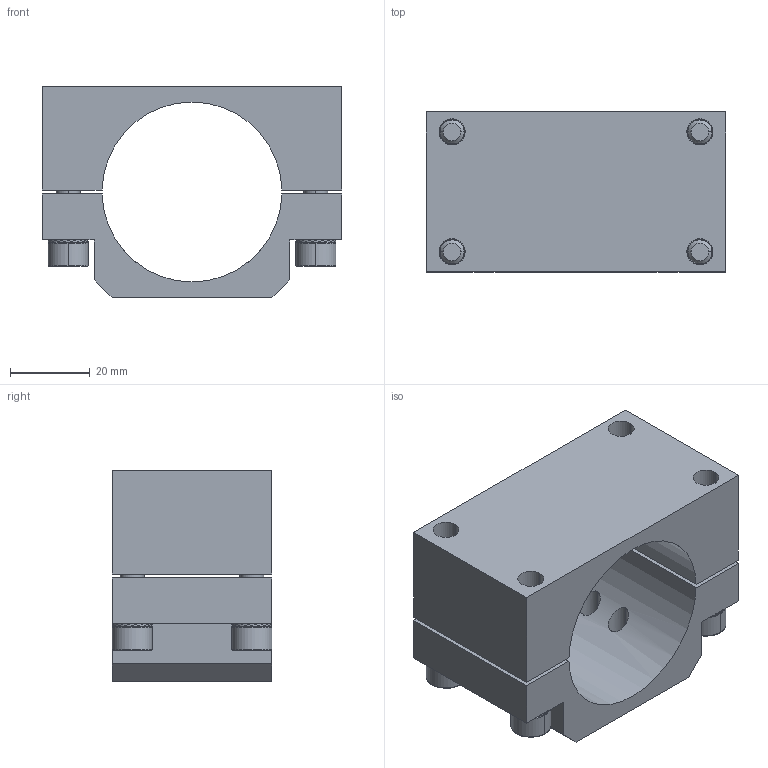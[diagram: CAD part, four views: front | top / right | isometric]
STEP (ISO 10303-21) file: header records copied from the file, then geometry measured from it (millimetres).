
FILE_DESCRIPTION (( 'STEP AP214' ), '1' );
FILE_NAME ('SCE3-N20.STEP', '2019-11-07T06:49:35', ( '微软用户' ), ( '微软中国' ), 'SwSTEP 2.0', 'SolidWorks 2016', '' );
FILE_SCHEMA (( 'AUTOMOTIVE_DESIGN' ));
Length unit declared in the file: millimetre
Products named in the file (1): SCE3-N20
Bounding box: 75 x 40 x 53 mm (x, y, z)
Volume: 77582.2 mm3; surface area: 29228.5 mm2
Topology: 10 solids, 10 shells, 719 faces, 2081 edges, 1382 vertices
Faces by surface type: plane 636, cylinder 59, cone 16, bspline 8
Entity records: 32221 total; most frequent: CARTESIAN_POINT 4575, DIRECTION 4191, ORIENTED_EDGE 4162, EDGE_CURVE 2081, AXIS2_PLACEMENT_3D 1422, VERTEX_POINT 1382, VECTOR 1347, LINE 1347
